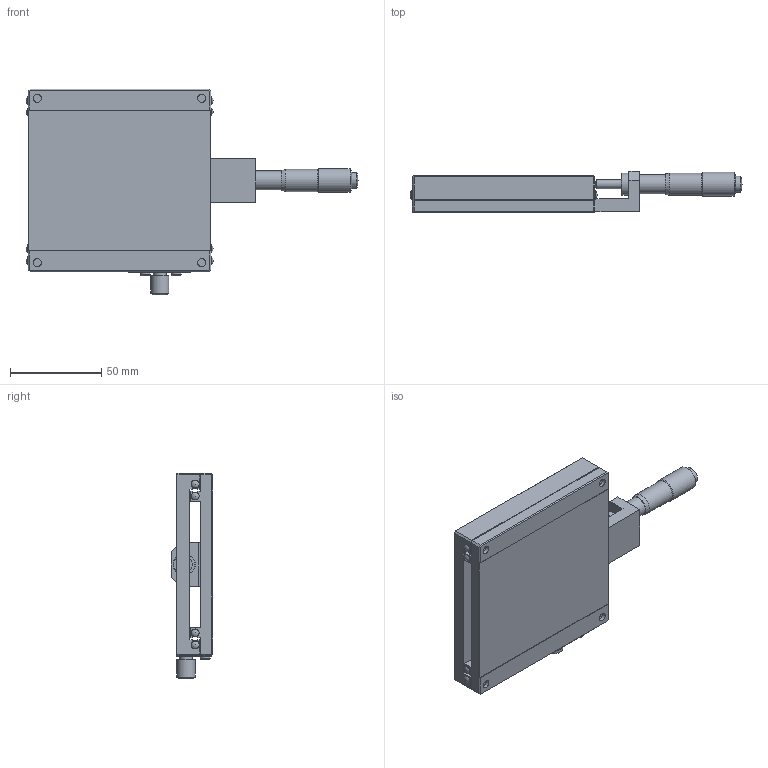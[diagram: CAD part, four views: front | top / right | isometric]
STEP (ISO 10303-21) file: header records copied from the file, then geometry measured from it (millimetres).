
FILE_DESCRIPTION(/* description */ ('STEP AP214'),/* implementation_level */ '2;1');
FILE_NAME(/* name */ 'LBX100-C',/* time_stamp */ '2024-09-23T03:23:08+02:00',/* author */ ('License CC BY-ND 4.0'),/* organization */ ('CADENAS'),/* preprocessor_version */ 'ST-DEVELOPER v19.3',/* originating_system */ 'PARTsolutions',/* authorisation */ ' ');
FILE_SCHEMA (('AUTOMOTIVE_DESIGN {1 0 10303 214 3 1 1}'));
Length unit declared in the file: millimetre
Products named in the file (4): LBX100-C; LB100C_XG; LB100C_SG; MT_WT_25_Q_13
Assembly tree (3 placements, depth 2):
  LBX100-C
    LB100C_XG
    LB100C_SG
    MT_WT_25_Q_13
Bounding box: 181.7 x 22.5 x 112.6 mm (x, y, z)
Volume: 163348.1 mm3; surface area: 61339.9 mm2
Topology: 3 solids, 3 shells, 205 faces, 456 edges, 284 vertices
Faces by surface type: plane 121, cylinder 61, sphere 9, torus 7, cone 7
Full cylindrical faces by diameter (mm): 3 x1, 3.242 x16, 4.3 x4, 4.5 x8, 5 x3, 5.5 x4, 6 x2, 7 x1, 8 x4, 8.734 x1, 9 x1, 10 x1, 10.4 x1, 10.6 x1, 12 x1, 12.102 x1, 13.002 x1
Entity records: 5185 total; most frequent: DIRECTION 936, CARTESIAN_POINT 832, ORIENTED_EDGE 720, AXIS2_PLACEMENT_3D 367, EDGE_CURVE 360, FACE_BOUND 317, EDGE_LOOP 316, VERTEX_POINT 263
